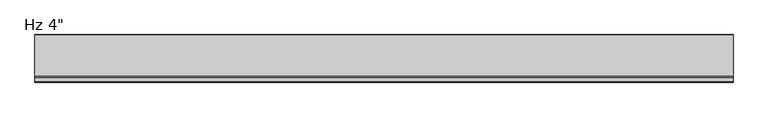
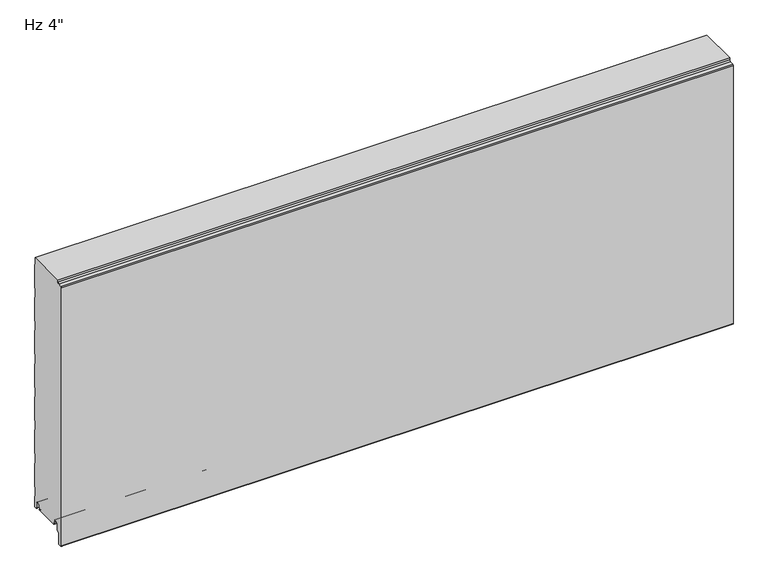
"""IFC4 building model written with IfcOpenShell, lengths in millimetres: plate geometry."""

from ifc_helpers import new_model, si_unit, frame, origin, place, context, project, spatial, polyline, circle_curve, source, transform, mapped, element, save
from ifc_brep_helpers import plane_surface, cylinder_surface, revolved_surface, advanced_brep


def plate_94de314c(model_context):
    return source(origin(), model_context, "Body", "AdvancedBrep", [
        advanced_brep(
        [(-730.0, -73.2708959, 1.0316999), (-730.0, -72.1014212, 2.2328239), (-730.0, -72.1014212, 5.9912173), (-730.0, -73.4999001, 5.9912173), (-730.0, -73.4999001, 8.6903283), (-730.0, -76.8498954, 12.0403236), (-730.0, -81.2498866, 12.0403236), (-730.0, -84.5998819, 8.6903283), (-730.0, -84.5998819, -3.1205608), (-730.0, -85.0977988, -4.3226385), (-730.0, -90.5998699, -9.8247096), (-730.0, -90.5998699, -31.9198392), (-730.0, -92.8184719, -34.5765709), (-730.0, -97.8002927, -35.0125699), (-730.0, -100.5946177, -32.4521176), (-730.0, -100.6000209, 561.115622), (-730.0, -98.8149468, 563.0669057), (-730.0, -90.35397, 563.821161), (-730.0, -87.5906671, 566.9653654), (-730.0, -87.5906671, 571.2), (-730.0, -2.2002516, 571.2), (-730.0, -2.2002516, 555.8186019), (-730.0, -1.0000209, 554.4329689), (-730.0, -1.0000209, 500.3795535), (-730.0, -2.2002516, 498.9939206), (-730.0, -2.2002516, 479.6187543), (-730.0, -1.0000209, 478.2331213), (-730.0, -1.0000209, 424.1797059), (-730.0, -2.2002516, 422.794073), (-730.0, -2.2002516, 403.4189067), (-730.0, -1.0000209, 402.0332737), (-730.0, -1.0000209, 347.9798583), (-730.0, -2.2002516, 346.5942254), (-730.0, -2.2002516, 327.2190591), (-730.0, -1.0000209, 325.8334261), (-730.0, -1.0000209, 271.7800107), (-730.0, -2.2002516, 270.3943778), (-730.0, -2.2002516, 251.0192115), (-730.0, -1.0000209, 249.6335785), (-730.0, -1.0000209, 195.5801631), (-730.0, -2.2002516, 194.1945302), (-730.0, -2.2002516, 174.8193639), (-730.0, -1.0000209, 173.4337309), (-730.0, -1.0000209, 119.3803155), (-730.0, -2.2002516, 117.9946826), (-730.0, -2.2002516, 98.6195163), (-730.0, -1.0000209, 97.2338833), (-730.0, -1.0000209, 43.1804679), (-730.0, -2.2002516, 41.794835), (-730.0, -2.2002516, 22.4196687), (-730.0, -1.0000126, 21.034026), (-730.0, -1.0000126, -3.4662506), (-730.0, -5.2315599, -3.4662506), (-730.0, -7.001554, -1.6962564), (-730.0, -7.001554, 8.7237222), (-730.0, -10.3015499, 12.023718), (-730.0, -14.7015411, 12.023718), (-730.0, -18.0015368, 8.7237223), (-730.0, -18.0015368, 6.0315125), (-730.0, -19.0015314, 6.0315125), (-730.0, -19.0015314, 2.0313089), (-730.0, -18.0015401, 1.0313117), (-730.0, -19.0328517, 0.0), (-730.0, -72.239196, 0.0), (730.0, -73.2708959, 1.0316999), (730.0, -72.239196, 0.0), (730.0, -19.0328517, 0.0), (730.0, -18.0015401, 1.0313117), (730.0, -19.0015314, 2.0313089), (730.0, -19.0015314, 6.0315125), (730.0, -18.0015368, 6.0315125), (730.0, -18.0015368, 8.7237223), (730.0, -14.7015411, 12.023718), (730.0, -10.3015499, 12.023718), (730.0, -7.001554, 8.7237222), (730.0, -7.001554, -1.6962564), (730.0, -5.2315599, -3.4662506), (730.0, -1.0000126, -3.4662506), (730.0, -1.0000126, 21.034026), (730.0, -2.2002516, 22.4196687), (730.0, -2.2002516, 41.794835), (730.0, -1.0000209, 43.1804679), (730.0, -1.0000209, 97.2338833), (730.0, -2.2002516, 98.6195163), (730.0, -2.2002516, 117.9946826), (730.0, -1.0000209, 119.3803155), (730.0, -1.0000209, 173.4337309), (730.0, -2.2002516, 174.8193639), (730.0, -2.2002516, 194.1945302), (730.0, -1.0000209, 195.5801631), (730.0, -1.0000209, 249.6335785), (730.0, -2.2002516, 251.0192115), (730.0, -2.2002516, 270.3943778), (730.0, -1.0000209, 271.7800107), (730.0, -1.0000209, 325.8334261), (730.0, -2.2002516, 327.2190591), (730.0, -2.2002516, 346.5942254), (730.0, -1.0000209, 347.9798583), (730.0, -1.0000209, 402.0332737), (730.0, -2.2002516, 403.4189067), (730.0, -2.2002516, 422.794073), (730.0, -1.0000209, 424.1797059), (730.0, -1.0000209, 478.2331213), (730.0, -2.2002516, 479.6187543), (730.0, -2.2002516, 498.9939206), (730.0, -1.0000209, 500.3795535), (730.0, -1.0000209, 554.4329689), (730.0, -2.2002516, 555.8186019), (730.0, -2.2002516, 571.2), (730.0, -87.5906671, 571.2), (730.0, -87.5906671, 566.9653654), (730.0, -90.35397, 563.821161), (730.0, -98.8149468, 563.0669057), (730.0, -100.6000209, 561.115622), (730.0, -100.6000209, -32.4521176), (730.0, -97.8002927, -35.0125699), (730.0, -92.8184719, -34.5765709), (730.0, -90.5998699, -31.9198392), (730.0, -90.5998699, -9.8247096), (730.0, -85.0977988, -4.3226385), (730.0, -84.5998819, -3.1205608), (730.0, -84.5998819, 8.6903283), (730.0, -81.2498866, 12.0403236), (730.0, -76.8498954, 12.0403236), (730.0, -73.4999001, 8.6903283), (730.0, -73.4999001, 5.9912173), (730.0, -72.1014212, 5.9912173), (730.0, -72.1014212, 2.2328239)],
        [
            (0, 1, circle_curve(frame((-730.0, -73.3014178, 2.2313092), z_axis=(1.0, 0.0, 0.0), x_axis=(0.0, 0.0, -1.0)), 1.1999976)),
            (1, 2),
            (2, 3),
            (3, 4),
            (4, 5, circle_curve(frame((-730.0, -76.8498954, 8.6903283), z_axis=(1.0, 0.0, 0.0), x_axis=(0.0, 0.0, -1.0)), 3.3499953)),
            (5, 6),
            (6, 7, circle_curve(frame((-730.0, -81.2498866, 8.6903283), z_axis=(1.0, 0.0, 0.0), x_axis=(0.0, 0.0, -1.0)), 3.3499953)),
            (7, 8),
            (8, 9, circle_curve(frame((-730.0, -86.2998765, -3.1205608), z_axis=(-1.0, 0.0, 0.0), x_axis=(0.0, 0.0, -1.0)), 1.6999946)),
            (9, 10),
            (10, 11),
            (11, 12, circle_curve(frame((-730.0, -93.2998625, -31.9198392), z_axis=(-1.0, 0.0, 0.0), x_axis=(0.0, 0.0, -1.0)), 2.6999926)),
            (12, 13),
            (13, 14, circle_curve(frame((-730.0, -98.0243784, -32.4521176), z_axis=(-1.0, 0.0, 0.0), x_axis=(0.0, 0.0, -1.0)), 2.5702393)),
            (14, 15),
            (15, 16, circle_curve(frame((-730.0, -98.6409993, 561.115622), z_axis=(-1.0, 0.0, 0.0), x_axis=(0.0, 0.0, -1.0)), 1.9590216)),
            (16, 17),
            (17, 18, circle_curve(frame((-730.0, -90.618053, 566.8396267), z_axis=(1.0, 0.0, 0.0), x_axis=(0.0, 0.0, -1.0)), 3.0299959)),
            (18, 19),
            (19, 20),
            (20, 21),
            (21, 22),
            (22, 23),
            (23, 24),
            (24, 25),
            (25, 26),
            (26, 27),
            (27, 28),
            (28, 29),
            (29, 30),
            (30, 31),
            (31, 32),
            (32, 33),
            (33, 34),
            (34, 35),
            (35, 36),
            (36, 37),
            (37, 38),
            (38, 39),
            (39, 40),
            (40, 41),
            (41, 42),
            (42, 43),
            (43, 44),
            (44, 45),
            (45, 46),
            (46, 47),
            (47, 48),
            (48, 49),
            (49, 50),
            (50, 51),
            (51, 52),
            (52, 53, circle_curve(frame((-730.0, -5.2315599, -1.6962564), z_axis=(-1.0, 0.0, 0.0), x_axis=(0.0, 0.0, 1.0)), 1.7699942)),
            (53, 54),
            (54, 55, circle_curve(frame((-730.0, -10.3015499, 8.7237222), z_axis=(1.0, 0.0, 0.0), x_axis=(0.0, 0.0, 1.0)), 3.2999959)),
            (55, 56),
            (56, 57, circle_curve(frame((-730.0, -14.7015411, 8.7237223), z_axis=(1.0, 0.0, 0.0), x_axis=(0.0, 0.0, 1.0)), 3.2999957)),
            (57, 58),
            (58, 59),
            (59, 60),
            (60, 61, circle_curve(frame((-730.0, -18.0015342, 2.0313089), z_axis=(1.0, 0.0, 0.0), x_axis=(0.0, 0.0, 1.0)), 0.9999972)),
            (61, 62),
            (62, 63),
            (63, 0),
            (64, 65),
            (65, 66),
            (66, 67),
            (67, 68, circle_curve(frame((730.0, -18.0015342, 2.0313089), z_axis=(-1.0, 0.0, 0.0), x_axis=(0.0, 0.0, 1.0)), 0.9999972)),
            (68, 69),
            (69, 70),
            (70, 71),
            (71, 72, circle_curve(frame((730.0, -14.7015411, 8.7237223), z_axis=(-1.0, 0.0, 0.0), x_axis=(0.0, 0.0, 1.0)), 3.2999957)),
            (72, 73),
            (73, 74, circle_curve(frame((730.0, -10.3015499, 8.7237222), z_axis=(-1.0, 0.0, 0.0), x_axis=(0.0, 0.0, 1.0)), 3.2999959)),
            (74, 75),
            (75, 76, circle_curve(frame((730.0, -5.2315599, -1.6962564), z_axis=(1.0, 0.0, 0.0), x_axis=(0.0, 0.0, 1.0)), 1.7699942)),
            (76, 77),
            (77, 78),
            (78, 79),
            (79, 80),
            (80, 81),
            (81, 82),
            (82, 83),
            (83, 84),
            (84, 85),
            (85, 86),
            (86, 87),
            (87, 88),
            (88, 89),
            (89, 90),
            (90, 91),
            (91, 92),
            (92, 93),
            (93, 94),
            (94, 95),
            (95, 96),
            (96, 97),
            (97, 98),
            (98, 99),
            (99, 100),
            (100, 101),
            (101, 102),
            (102, 103),
            (103, 104),
            (104, 105),
            (105, 106),
            (106, 107),
            (107, 108),
            (108, 109),
            (109, 110),
            (110, 111, circle_curve(frame((730.0, -90.618053, 566.8396267), z_axis=(-1.0, 0.0, 0.0), x_axis=(0.0, 0.0, -1.0)), 3.0299959)),
            (111, 112),
            (112, 113, circle_curve(frame((730.0, -98.6409993, 561.115622), z_axis=(1.0, 0.0, 0.0), x_axis=(0.0, 0.0, -1.0)), 1.9590216)),
            (113, 114),
            (114, 115, circle_curve(frame((730.0, -98.0243784, -32.4521176), z_axis=(1.0, 0.0, 0.0), x_axis=(0.0, 0.0, -1.0)), 2.5702393)),
            (115, 116),
            (116, 117, circle_curve(frame((730.0, -93.2998625, -31.9198392), z_axis=(1.0, 0.0, 0.0), x_axis=(0.0, 0.0, -1.0)), 2.6999926)),
            (117, 118),
            (118, 119),
            (119, 120, circle_curve(frame((730.0, -86.2998765, -3.1205608), z_axis=(1.0, 0.0, 0.0), x_axis=(0.0, 0.0, -1.0)), 1.6999946)),
            (120, 121),
            (121, 122, circle_curve(frame((730.0, -81.2498866, 8.6903283), z_axis=(-1.0, 0.0, 0.0), x_axis=(0.0, 0.0, -1.0)), 3.3499953)),
            (122, 123),
            (123, 124, circle_curve(frame((730.0, -76.8498954, 8.6903283), z_axis=(-1.0, 0.0, 0.0), x_axis=(0.0, 0.0, -1.0)), 3.3499953)),
            (124, 125),
            (125, 126),
            (126, 127),
            (127, 64, circle_curve(frame((730.0, -73.3014178, 2.2313092), z_axis=(-1.0, 0.0, 0.0), x_axis=(0.0, 0.0, -1.0)), 1.1999976)),
            (63, 65),
            (64, 0),
            (62, 66),
            (14, 114),
            (113, 15),
            (13, 115),
            (12, 116),
            (11, 117),
            (10, 118),
            (9, 119),
            (8, 120),
            (7, 121),
            (6, 122),
            (5, 123),
            (4, 124),
            (3, 125),
            (2, 126),
            (1, 127),
            (61, 67),
            (60, 68),
            (59, 69),
            (58, 70),
            (57, 71),
            (56, 72),
            (55, 73),
            (54, 74),
            (53, 75),
            (52, 76),
            (51, 77),
            (49, 79),
            (78, 50),
            (48, 80),
            (47, 81),
            (46, 82),
            (45, 83),
            (44, 84),
            (43, 85),
            (42, 86),
            (41, 87),
            (40, 88),
            (39, 89),
            (38, 90),
            (37, 91),
            (36, 92),
            (35, 93),
            (34, 94),
            (33, 95),
            (32, 96),
            (31, 97),
            (30, 98),
            (19, 109),
            (108, 20),
            (18, 110),
            (17, 111),
            (16, 112),
            (29, 99),
            (28, 100),
            (27, 101),
            (26, 102),
            (25, 103),
            (24, 104),
            (23, 105),
            (22, 106),
            (21, 107),
        ],
        [
            plane_surface(frame((-730.0, -100.6000209, 304.8), z_axis=(-1.0, 0.0, 0.0), x_axis=(0.0, -1.0, 0.0))),
            plane_surface(frame((730.0, -100.6000209, 304.8), z_axis=(1.0, 0.0, 0.0), x_axis=(0.0, -1.0, 0.0))),
            plane_surface(frame((-730.0, -73.2708959, 1.0316999), z_axis=(0.0, -0.7071067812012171, -0.707106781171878), x_axis=(1.0, 0.0, 0.0))),
            plane_surface(frame((-730.0, -72.239196, 0.0), z_axis=(0.0, 0.0, -1.0), x_axis=(1.0, 0.0, 0.0))),
            plane_surface(frame((-730.0, -100.6000209, 561.115622), z_axis=(0.0, -1.0, 0.0), x_axis=(1.0, 0.0, 0.0))),
            cylinder_surface(frame((-730.0, -98.0243784, -32.4521176), z_axis=(-1.0, 0.0, 0.0), x_axis=(0.0, 0.0, -1.0)), 2.5702393),
            plane_surface(frame((-730.0, -97.8002927, -35.0125699), z_axis=(0.0, 0.08718474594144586, -0.9961921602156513), x_axis=(1.0, 0.0, 0.0))),
            cylinder_surface(frame((-730.0, -93.2998625, -31.9198392), z_axis=(-1.0, 0.0, 0.0), x_axis=(0.0, 0.0, -1.0)), 2.6999926),
            plane_surface(frame((-730.0, -90.5998699, -31.9198392), z_axis=(0.0, 1.0, 0.0), x_axis=(1.0, 0.0, 0.0))),
            plane_surface(frame((-730.0, -90.5998699, -9.8247096), z_axis=(0.0, 0.7071067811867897, -0.7071067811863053), x_axis=(1.0, 0.0, 0.0))),
            cylinder_surface(frame((-730.0, -86.2998765, -3.1205608), z_axis=(-1.0, 0.0, 0.0), x_axis=(0.0, 0.0, -1.0)), 1.6999946),
            plane_surface(frame((-730.0, -84.5998819, -3.1205608), z_axis=(0.0, 1.0, 0.0), x_axis=(1.0, 0.0, 0.0))),
            revolved_surface(polyline([(730.0, -81.2498866, 5.340332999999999), (-730.0, -81.2498866, 5.340332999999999)]), (-730.0, -81.2498866, 8.6903283), (1.0, 0.0, 0.0)),
            plane_surface(frame((-730.0, -81.2498866, 12.0403236), z_axis=(0.0, 0.0, -1.0), x_axis=(1.0, 0.0, 0.0))),
            revolved_surface(polyline([(730.0, -76.8498954, 5.340332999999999), (-730.0, -76.8498954, 5.340332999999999)]), (-730.0, -76.8498954, 8.6903283), (1.0, 0.0, 0.0)),
            plane_surface(frame((-730.0, -73.4999001, 8.6903283), z_axis=(0.0, -1.0, 0.0), x_axis=(1.0, 0.0, 0.0))),
            plane_surface(frame((-730.0, -73.4999001, 5.9912173), z_axis=(0.0, 0.0, -1.0), x_axis=(1.0, 0.0, 0.0))),
            plane_surface(frame((-730.0, -72.1014212, 5.9912173), z_axis=(0.0, -1.0, 0.0), x_axis=(1.0, 0.0, 0.0))),
            revolved_surface(polyline([(730.0, -73.3014178, 1.0313116), (-730.0, -73.3014178, 1.0313116)]), (-730.0, -73.3014178, 2.2313092), (1.0, 0.0, 0.0)),
            plane_surface(frame((-730.0, -19.0328517, 0.0), z_axis=(0.0, 0.7071067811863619, -0.7071067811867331), x_axis=(1.0, 0.0, 0.0))),
            revolved_surface(polyline([(730.0, -18.0015342, 3.0313061), (-730.0, -18.0015342, 3.0313061)]), (-730.0, -18.0015342, 2.0313089), (1.0, 0.0, 0.0)),
            plane_surface(frame((-730.0, -19.0015314, 2.0313089), z_axis=(0.0, 1.0, 0.0), x_axis=(1.0, 0.0, 0.0))),
            plane_surface(frame((-730.0, -19.0015314, 6.0315125), z_axis=(0.0, 0.0, -1.0), x_axis=(1.0, 0.0, 0.0))),
            plane_surface(frame((-730.0, -18.0015368, 6.0315125), z_axis=(0.0, 1.0, 0.0), x_axis=(1.0, 0.0, 0.0))),
            revolved_surface(polyline([(730.0, -14.7015411, 12.023718), (-730.0, -14.7015411, 12.023718)]), (-730.0, -14.7015411, 8.7237223), (1.0, 0.0, 0.0)),
            plane_surface(frame((-730.0, -14.7015411, 12.023718), z_axis=(0.0, 0.0, -1.0), x_axis=(1.0, 0.0, 0.0))),
            revolved_surface(polyline([(730.0, -10.3015499, 12.0237181), (-730.0, -10.3015499, 12.0237181)]), (-730.0, -10.3015499, 8.7237222), (1.0, 0.0, 0.0)),
            plane_surface(frame((-730.0, -7.001554, 8.7237222), z_axis=(0.0, -1.0, 0.0), x_axis=(1.0, 0.0, 0.0))),
            cylinder_surface(frame((-730.0, -5.2315599, -1.6962564), z_axis=(-1.0, 0.0, 0.0), x_axis=(0.0, 0.0, 1.0)), 1.7699942),
            plane_surface(frame((-730.0, -5.2315599, -3.4662506), z_axis=(0.0, 0.0, -1.0), x_axis=(1.0, 0.0, 0.0))),
            plane_surface(frame((-730.0, -1.0000126, 21.034026), z_axis=(0.0, 0.7558648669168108, 0.6547276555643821), x_axis=(1.0, 0.0, 0.0))),
            plane_surface(frame((-730.0, -1.0000126, -3.4662506), z_axis=(0.0, 1.0, 0.0), x_axis=(1.0, 0.0, 0.0))),
            plane_surface(frame((-730.0, -2.2002516, 22.4196687), z_axis=(0.0, 1.0, 0.0), x_axis=(1.0, 0.0, 0.0))),
            plane_surface(frame((-730.0, -2.2002516, 41.794835), z_axis=(0.0, 0.7558648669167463, -0.6547276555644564), x_axis=(1.0, 0.0, 0.0))),
            plane_surface(frame((-730.0, -1.0000209, 43.1804679), z_axis=(0.0, 1.0, 0.0), x_axis=(1.0, 0.0, 0.0))),
            plane_surface(frame((-730.0, -1.0000209, 97.2338833), z_axis=(0.0, 0.7558648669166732, 0.6547276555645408), x_axis=(1.0, 0.0, 0.0))),
            plane_surface(frame((-730.0, -2.2002516, 98.6195163), z_axis=(0.0, 1.0, 0.0), x_axis=(1.0, 0.0, 0.0))),
            plane_surface(frame((-730.0, -2.2002516, 117.9946826), z_axis=(0.0, 0.7558648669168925, -0.6547276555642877), x_axis=(1.0, 0.0, 0.0))),
            plane_surface(frame((-730.0, -1.0000209, 119.3803155), z_axis=(0.0, 1.0, 0.0), x_axis=(1.0, 0.0, 0.0))),
            plane_surface(frame((-730.0, -1.0000209, 173.4337309), z_axis=(0.0, 0.7558648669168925, 0.6547276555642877), x_axis=(1.0, 0.0, 0.0))),
            plane_surface(frame((-730.0, -2.2002516, 174.8193639), z_axis=(0.0, 1.0, 0.0), x_axis=(1.0, 0.0, 0.0))),
            plane_surface(frame((-730.0, -2.2002516, 194.1945302), z_axis=(0.0, 0.7558648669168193, -0.6547276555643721), x_axis=(1.0, 0.0, 0.0))),
            plane_surface(frame((-730.0, -1.0000209, 195.5801631), z_axis=(0.0, 1.0, 0.0), x_axis=(1.0, 0.0, 0.0))),
            plane_surface(frame((-730.0, -1.0000209, 249.6335785), z_axis=(0.0, 0.7558648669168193, 0.6547276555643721), x_axis=(1.0, 0.0, 0.0))),
            plane_surface(frame((-730.0, -2.2002516, 251.0192115), z_axis=(0.0, 1.0, 0.0), x_axis=(1.0, 0.0, 0.0))),
            plane_surface(frame((-730.0, -2.2002516, 270.3943778), z_axis=(0.0, 0.7558648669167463, -0.6547276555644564), x_axis=(1.0, 0.0, 0.0))),
            plane_surface(frame((-730.0, -1.0000209, 271.7800107), z_axis=(0.0, 1.0, 0.0), x_axis=(1.0, 0.0, 0.0))),
            plane_surface(frame((-730.0, -1.0000209, 325.8334261), z_axis=(0.0, 0.7558648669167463, 0.6547276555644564), x_axis=(1.0, 0.0, 0.0))),
            plane_surface(frame((-730.0, -2.2002516, 327.2190591), z_axis=(0.0, 1.0, 0.0), x_axis=(1.0, 0.0, 0.0))),
            plane_surface(frame((-730.0, -2.2002516, 346.5942254), z_axis=(0.0, 0.7558648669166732, -0.6547276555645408), x_axis=(1.0, 0.0, 0.0))),
            plane_surface(frame((-730.0, -1.0000209, 347.9798583), z_axis=(0.0, 1.0, 0.0), x_axis=(1.0, 0.0, 0.0))),
            plane_surface(frame((730.0, 9.9999791, 571.2), z_axis=(0.0, 0.0, 1.0), x_axis=(-1.0, 0.0, 0.0))),
            plane_surface(frame((-730.0, -87.5906671, 577.0583308), z_axis=(0.0, -1.0, 0.0), x_axis=(1.0, 0.0, 0.0))),
            revolved_surface(polyline([(730.0, -90.618053, 563.8096308), (-730.0, -90.618053, 563.8096308)]), (-730.0, -90.618053, 566.8396267), (1.0, 0.0, 0.0)),
            plane_surface(frame((-730.0, -90.35397, 563.821161), z_axis=(0.0, -0.08879306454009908, 0.9960500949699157), x_axis=(1.0, 0.0, 0.0))),
            cylinder_surface(frame((-730.0, -98.6409993, 561.115622), z_axis=(-1.0, 0.0, 0.0), x_axis=(0.0, 0.0, -1.0)), 1.9590216),
            plane_surface(frame((-730.0, -1.0000209, 402.0332737), z_axis=(0.0, 0.7558648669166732, 0.6547276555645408), x_axis=(1.0, 0.0, 0.0))),
            plane_surface(frame((-730.0, -2.2002516, 403.4189067), z_axis=(0.0, 1.0, 0.0), x_axis=(1.0, 0.0, 0.0))),
            plane_surface(frame((-730.0, -2.2002516, 422.794073), z_axis=(0.0, 0.755864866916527, -0.6547276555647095), x_axis=(1.0, 0.0, 0.0))),
            plane_surface(frame((-730.0, -1.0000209, 424.1797059), z_axis=(0.0, 1.0, 0.0), x_axis=(1.0, 0.0, 0.0))),
            plane_surface(frame((-730.0, -1.0000209, 478.2331213), z_axis=(0.0, 0.755864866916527, 0.6547276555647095), x_axis=(1.0, 0.0, 0.0))),
            plane_surface(frame((-730.0, -2.2002516, 479.6187543), z_axis=(0.0, 1.0, 0.0), x_axis=(1.0, 0.0, 0.0))),
            plane_surface(frame((-730.0, -2.2002516, 498.9939206), z_axis=(0.0, 0.755864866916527, -0.6547276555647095), x_axis=(1.0, 0.0, 0.0))),
            plane_surface(frame((-730.0, -1.0000209, 500.3795535), z_axis=(0.0, 1.0, 0.0), x_axis=(1.0, 0.0, 0.0))),
            plane_surface(frame((-730.0, -1.0000209, 554.4329689), z_axis=(0.0, 0.755864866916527, 0.6547276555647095), x_axis=(1.0, 0.0, 0.0))),
            plane_surface(frame((-730.0, -2.2002516, 555.8186019), z_axis=(0.0, 1.0, 0.0), x_axis=(1.0, 0.0, 0.0))),
        ],
        [
            (0, [[1, 2, 3, 4, 5, 6, 7, 8, 9, 10, 11, 12, 13, 14, 15, 16, 17, 18, 19, 20, 21, 22, 23, 24, 25, 26, 27, 28, 29, 30, 31, 32, 33, 34, 35, 36, 37, 38, 39, 40, 41, 42, 43, 44, 45, 46, 47, 48, 49, 50, 51, 52, 53, 54, 55, 56, 57, 58, 59, 60, 61, 62, 63, 64]]),
            (1, [[65, 66, 67, 68, 69, 70, 71, 72, 73, 74, 75, 76, 77, 78, 79, 80, 81, 82, 83, 84, 85, 86, 87, 88, 89, 90, 91, 92, 93, 94, 95, 96, 97, 98, 99, 100, 101, 102, 103, 104, 105, 106, 107, 108, 109, 110, 111, 112, 113, 114, 115, 116, 117, 118, 119, 120, 121, 122, 123, 124, 125, 126, 127, 128]]),
            (2, [[129, -65, 130, -64]]),
            (3, [[-63, 131, -66, -129]]),
            (4, [[132, -114, 133, -15]]),
            (5, [[134, -115, -132, -14]]),
            (6, [[135, -116, -134, -13]]),
            (7, [[136, -117, -135, -12]]),
            (8, [[137, -118, -136, -11]]),
            (9, [[138, -119, -137, -10]]),
            (10, [[139, -120, -138, -9]]),
            (11, [[140, -121, -139, -8]]),
            (12, [[141, -122, -140, -7]]),
            (13, [[142, -123, -141, -6]]),
            (14, [[143, -124, -142, -5]]),
            (15, [[144, -125, -143, -4]]),
            (16, [[145, -126, -144, -3]]),
            (17, [[146, -127, -145, -2]]),
            (18, [[-130, -128, -146, -1]]),
            (19, [[147, -67, -131, -62]]),
            (20, [[148, -68, -147, -61]]),
            (21, [[149, -69, -148, -60]]),
            (22, [[150, -70, -149, -59]]),
            (23, [[151, -71, -150, -58]]),
            (24, [[152, -72, -151, -57]]),
            (25, [[153, -73, -152, -56]]),
            (26, [[154, -74, -153, -55]]),
            (27, [[155, -75, -154, -54]]),
            (28, [[156, -76, -155, -53]]),
            (29, [[157, -77, -156, -52]]),
            (30, [[158, -79, 159, -50]]),
            (31, [[-159, -78, -157, -51]]),
            (32, [[160, -80, -158, -49]]),
            (33, [[161, -81, -160, -48]]),
            (34, [[162, -82, -161, -47]]),
            (35, [[163, -83, -162, -46]]),
            (36, [[164, -84, -163, -45]]),
            (37, [[165, -85, -164, -44]]),
            (38, [[166, -86, -165, -43]]),
            (39, [[167, -87, -166, -42]]),
            (40, [[168, -88, -167, -41]]),
            (41, [[169, -89, -168, -40]]),
            (42, [[170, -90, -169, -39]]),
            (43, [[171, -91, -170, -38]]),
            (44, [[172, -92, -171, -37]]),
            (45, [[173, -93, -172, -36]]),
            (46, [[174, -94, -173, -35]]),
            (47, [[175, -95, -174, -34]]),
            (48, [[176, -96, -175, -33]]),
            (49, [[177, -97, -176, -32]]),
            (50, [[178, -98, -177, -31]]),
            (51, [[179, -109, 180, -20]]),
            (52, [[-110, -179, -19, 181]]),
            (53, [[182, -111, -181, -18]]),
            (54, [[183, -112, -182, -17]]),
            (55, [[-133, -113, -183, -16]]),
            (56, [[184, -99, -178, -30]]),
            (57, [[185, -100, -184, -29]]),
            (58, [[186, -101, -185, -28]]),
            (59, [[187, -102, -186, -27]]),
            (60, [[188, -103, -187, -26]]),
            (61, [[189, -104, -188, -25]]),
            (62, [[190, -105, -189, -24]]),
            (63, [[191, -106, -190, -23]]),
            (64, [[192, -107, -191, -22]]),
            (65, [[-21, -180, -108, -192]]),
        ],
    ),
    ])


if __name__ == "__main__":
    model = new_model("IFC4")
    model_context = context("Model", 3, world=origin())
    ifc_project = project(units=[si_unit("LENGTHUNIT", "METRE", prefix="MILLI")], contexts=[model_context])
    site = spatial("IfcSite", under=ifc_project)
    building = spatial("IfcBuilding", under=site)
    placement = place(None, origin())
    plate_shape = plate_94de314c(model_context)
    element("IfcPlate", 1, ObjectType="KIP-24-Karrier-KP-R19-CP-Hz-FL3-8in_SL : Hz 4\"", at=placement, inside=building, context=model_context, shape_type="MappedRepresentation", body=[
        mapped(plate_shape, transform((0.0, 0.0, 0.0), x_axis=(1.0, 0.0, 0.0), y_axis=(0.0, 1.0, 0.0), z_axis=(0.0, 0.0, 1.0))),
    ])
    save(model, "model.ifc")
